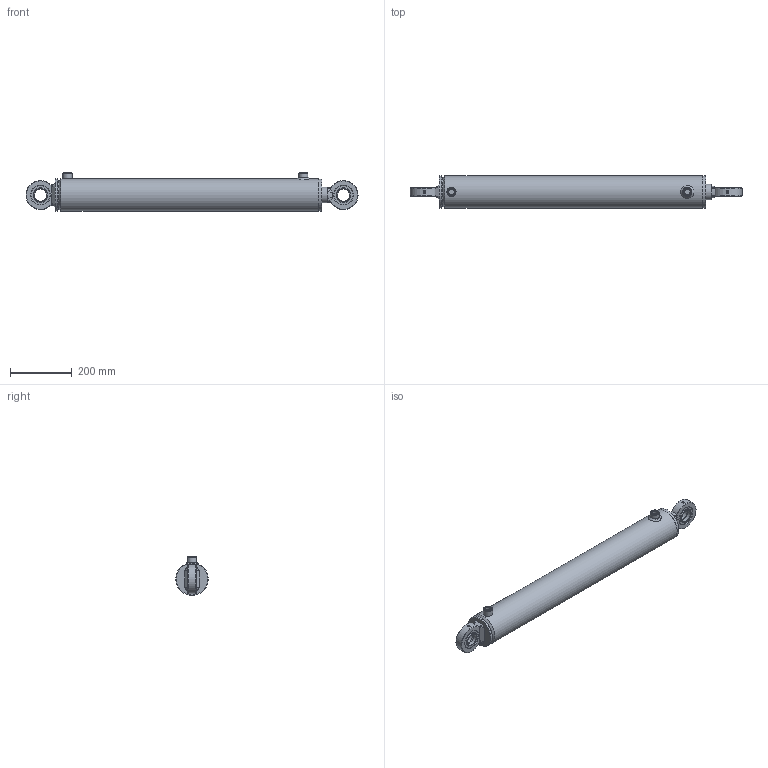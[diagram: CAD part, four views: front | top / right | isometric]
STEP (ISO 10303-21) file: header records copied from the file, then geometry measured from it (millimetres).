
FILE_DESCRIPTION( ( 'Unknown' ), '1' );
FILE_NAME( 'E:/LIBRERIA_3d/CILINDRI/HMC/HMC090500700.stp', 'Unknown', ( 'Unknown' ), ( 'Unknown' ), 'PSStep 17.0.49', 'Unknown', ' ' );
FILE_SCHEMA( ( 'AUTOMOTIVE_DESIGN { 1 0 10303 214 1 1 1 1 }' ) );
Length unit declared in the file: millimetre
Products named in the file (23): STL0901050700-oa2; Saldatura d'angolo 1-oa0; MAT_PRIMA_TUBO_FT10509000-oa1; CBSC220800; CT00090033; CG10509050; CAGEG09406240; CAGE094062; CGE0400000; HM0090500700; CF00090105; CBS0800000; APG0800000; CDA0003320; SBL0500900700; Assem1; Saldatura d'angolo 1-oa3; Saldatura d'angolo 2-oa4
Assembly tree (18 placements, depth 4):
  Saldatura d'angolo 1-oa0
  Saldatura d'angolo 1-oa0
  Assem1
    HM0090500700
      CF00090105
      CBS0800000
      APG0800000  x2
      CDA0003320
      SBL0500900700
      CG10509050
        CG10509050
      CT00090033
        CT00090033
      STL0901050700-oa2
        MAT_PRIMA_TUBO_FT10509000-oa1
        CBSC220800
    CAGEG09406240  x2
      CAGE094062
      CGE0400000
  Saldatura d'angolo 1-oa3
  Saldatura d'angolo 1-oa3
Bounding box: 1074 x 105 x 125 mm (x, y, z)
Volume: 4537149.4 mm3; surface area: 873734 mm2
Topology: 20 solids, 20 shells, 392 faces, 868 edges, 471 vertices
Faces by surface type: bspline 152, plane 82, cylinder 74, cone 42, torus 36, sphere 6
Full cylindrical faces by diameter (mm): 2.5 x4, 4.25 x1, 5 x2, 8 x2, 12 x1, 18.631 x2, 19.5 x2, 20.95 x2, 26 x2, 30 x2, 32.4 x1, 33 x5, 39.2 x1, 40 x4, 50 x6, 53 x3, 58.6 x1, 60 x1, 62 x6, 70 x1, 81.5 x1, 84.15 x2, 88.31 x2, 89.9 x1, 90 x1, 90.3 x1, 90.5 x1, 90.6 x1, 91 x1, 92 x1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
Entity records: 15905 total; most frequent: CARTESIAN_POINT 7441, ORIENTED_EDGE 1064, DIRECTION 872, EDGE_LOOP 541, EDGE_CURVE 532, FACE_OUTER_BOUND 455, AXIS2_PLACEMENT_3D 421, VERTEX_POINT 370
